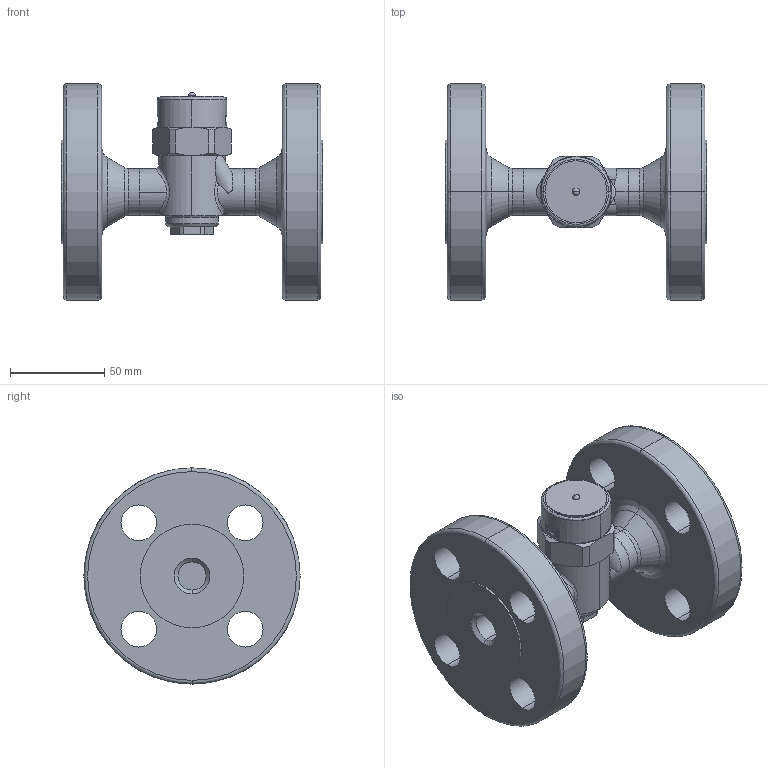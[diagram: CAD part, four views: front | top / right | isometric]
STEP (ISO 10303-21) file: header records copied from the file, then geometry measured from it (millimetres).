
FILE_DESCRIPTION( (''), '2;1');
FILE_NAME ('PC1276.13744.TSD-42F 15A JIS40K_29731.stp','2023-07-25T10:03:16',(''),(''),'spGate 19.8.4 (****-****-****-****)','','');
FILE_SCHEMA (('AUTOMOTIVE_DESIGN'));
Length unit declared in the file: millimetre
Products named in the file (10): Assembly; TSD-42F strainer cap; TSD-42F 銘板鋲; TSD-42F 15A  本体　3D; TSD-42F gasket; TSD-42F キャップA 3D; TSD-42F 保温カバー　3D; TSD-42F 銘板　3D; TSD-42F 15A 40K Flange 3D; TSD-42F 15A 40K Flange 3D_mr
Assembly tree (9 placements, depth 2):
  Assembly
    TSD-42F strainer cap
    TSD-42F 銘板鋲
    TSD-42F 15A  本体　3D
    TSD-42F gasket
    TSD-42F キャップA 3D
    TSD-42F 保温カバー　3D
    TSD-42F 銘板　3D
    TSD-42F 15A 40K Flange 3D
    TSD-42F 15A 40K Flange 3D_mr
Bounding box: 139 x 115 x 115 mm (x, y, z)
Volume: 477753.3 mm3; surface area: 93283.3 mm2
Topology: 9 solids, 9 shells, 282 faces, 651 edges, 386 vertices
Faces by surface type: cylinder 119, bspline 109, plane 52, sphere 2
Entity records: 15799 total; most frequent: CARTESIAN_POINT 4786, ORIENTED_EDGE 1258, DIRECTION 1053, COLOUR_RGB 920, PRESENTATION_STYLE_ASSIGNMENT 920, STYLED_ITEM 920, EDGE_CURVE 629, DRAUGHTING_PRE_DEFINED_CURVE_FONT 629
